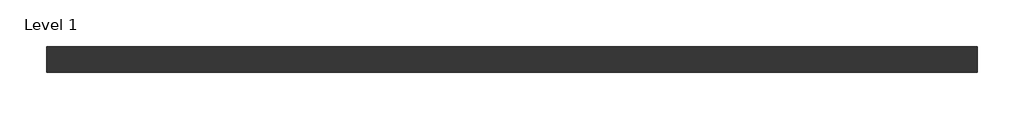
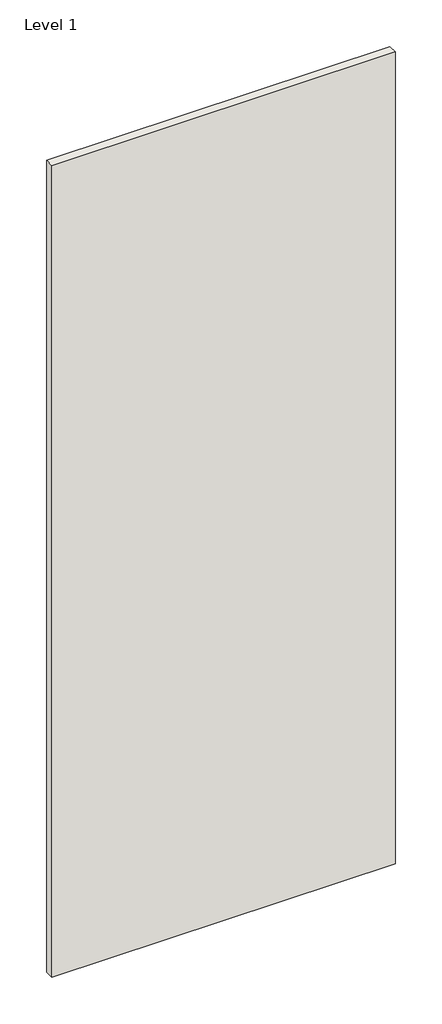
# One storey: 1 wall.
"""IFC4 building model written with IfcOpenShell, lengths in millimetres."""

from ifc_helpers import new_model, si_unit, origin, origin_with_axes, place, context, project, spatial, polyline, outline, extrude, element, save

model = new_model("IFC4")

# Units and contexts
model_context = context("Model", 3, world=origin())
ifc_project = project(units=[si_unit("LENGTHUNIT", "METRE", prefix="MILLI")], contexts=[model_context])

# Site, building, storey
site = spatial("IfcSite", under=ifc_project)
building = spatial("IfcBuilding", under=site)
storey = spatial("IfcBuildingStorey", under=building, Name="Level 1", Elevation=0.0)

# Wall
placement = place(None, origin())
element("IfcWall", 1, ObjectType="RIGIPS - 3.21.30", at=placement, inside=storey, context=model_context, shape_type="SweptSolid", body=[
    extrude(outline(polyline([(1000.0, -13.75), (0.0, -13.75), (0.0, 13.75), (1000.0, 13.75), (1000.0, -13.75)])), origin_with_axes(), (0.0, 0.0, 1.0), 2500.0),
])

save(model, "model.ifc")
